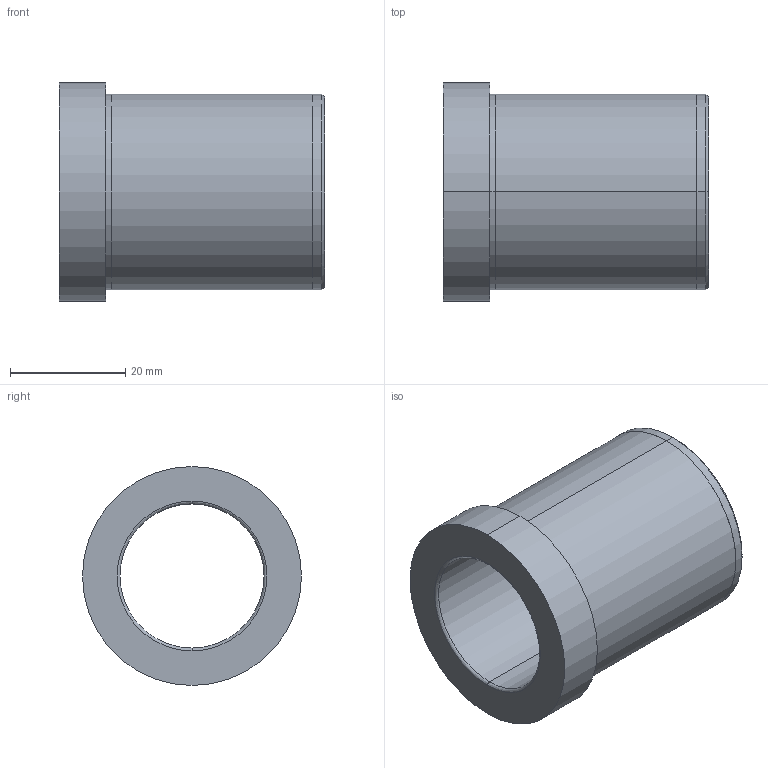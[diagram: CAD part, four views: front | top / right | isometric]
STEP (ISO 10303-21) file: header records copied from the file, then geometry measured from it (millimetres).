
FILE_DESCRIPTION( ( 'STEP AP203' ), '1' );
FILE_NAME( 'C:/Projects/D20 - 25x46.step', '2002-12-31T23:48:11', ( ' ' ), ( ' ' ), 'XStep 1.0', ' ', ' ' );
FILE_SCHEMA( ( 'CONFIG_CONTROL_DESIGN' ) );
Length unit declared in the file: metre
Products named in the file (1): 1
Bounding box: 46 x 38 x 38 mm (x, y, z)
Volume: 21009.4 mm3; surface area: 9852.5 mm2
Topology: 1 solids, 1 shells, 21 faces, 42 edges, 26 vertices
Faces by surface type: revolution 12, bspline 9
Entity records: 671 total; most frequent: CARTESIAN_POINT 201, ORIENTED_EDGE 84, DIRECTION 78, EDGE_CURVE 42, AXIS2_PLACEMENT_3D 27, EDGE_LOOP 26, VERTEX_POINT 26, CIRCLE 26
